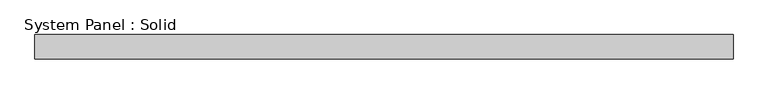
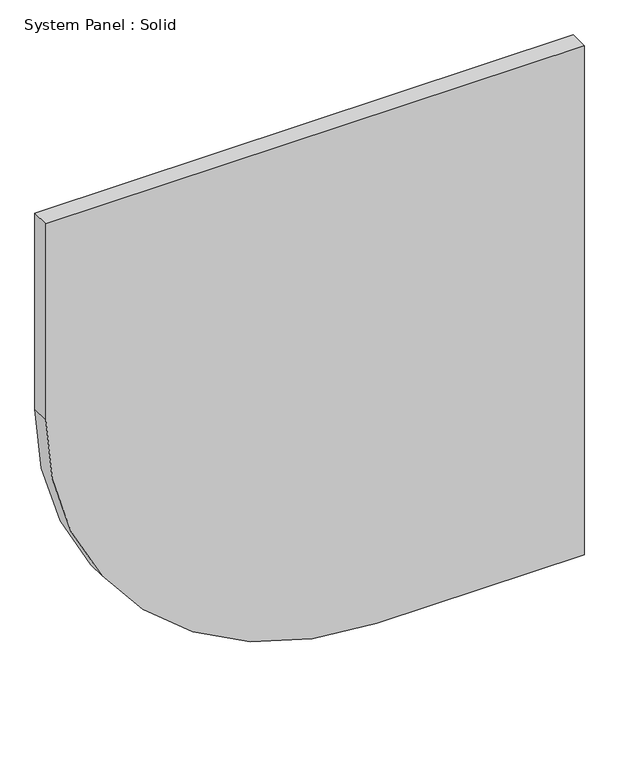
"""IFC4 building model written with IfcOpenShell, lengths in millimetres: plate geometry, System Panel : Solid."""

from ifc_helpers import new_model, si_unit, point, frame, frame_2d, origin, place, context, project, spatial, polyline, circle_curve, trimmed, segment, composite_curve, outline, extrude, source, transform, mapped, element, save


def system_panel_solid_b9d0c9b5(model_context):
    return source(origin(), model_context, "Body", "SweptSolid", [
        extrude(outline(composite_curve([segment(polyline([(0.0, 114.9999998), (0.0, 500.0000002), (1000.0, 500.0000002), (1000.0, -500.0000002), (615.0, -500.0000002)]), True, "CONTINUOUS"), segment(trimmed(circle_curve(frame_2d((615.0, 114.9999998)), 615.0), [point((615.0, -500.0000002))], [point((0.0, 114.9999998))], False, "CARTESIAN"), True, "CONTINUOUS")], self_intersect=False)), frame((0.0, -2.5, 0.0), z_axis=(0.0, 1.0, 0.0), x_axis=(0.0, 0.0, 1.0)), (0.0, 0.0, 1.0), 35.0),
    ])


if __name__ == "__main__":
    model = new_model("IFC4")
    model_context = context("Model", 3, world=origin())
    ifc_project = project(units=[si_unit("LENGTHUNIT", "METRE", prefix="MILLI")], contexts=[model_context])
    site = spatial("IfcSite", under=ifc_project)
    building = spatial("IfcBuilding", under=site)
    placement = place(None, origin())
    system_panel_solid_shape = system_panel_solid_b9d0c9b5(model_context)
    element("IfcPlate", 1, ObjectType="System Panel : Solid", at=placement, inside=building, context=model_context, shape_type="MappedRepresentation", body=[
        mapped(system_panel_solid_shape, transform((0.0, 0.0, 0.0), x_axis=(1.0, 0.0, 0.0), y_axis=(0.0, 1.0, 0.0), z_axis=(0.0, 0.0, 1.0))),
    ])
    save(model, "model.ifc")
